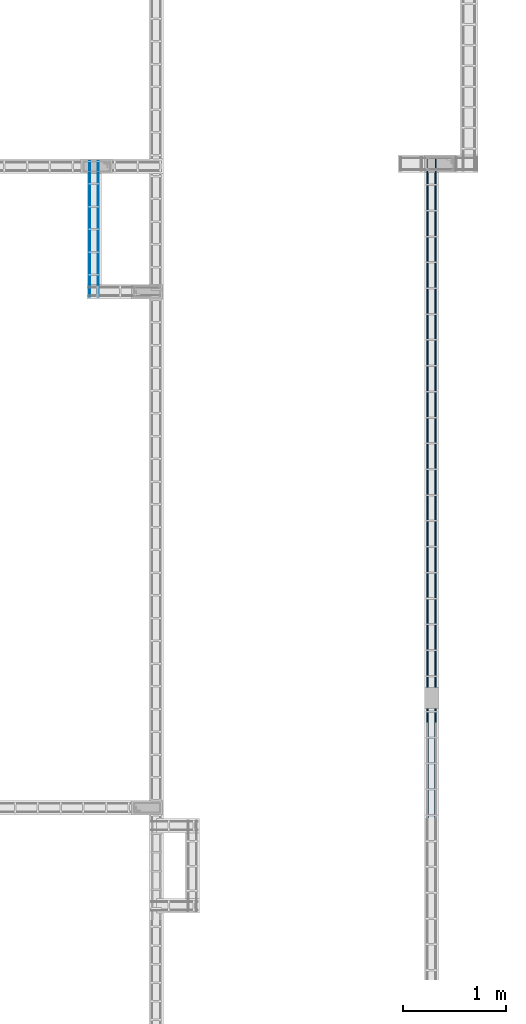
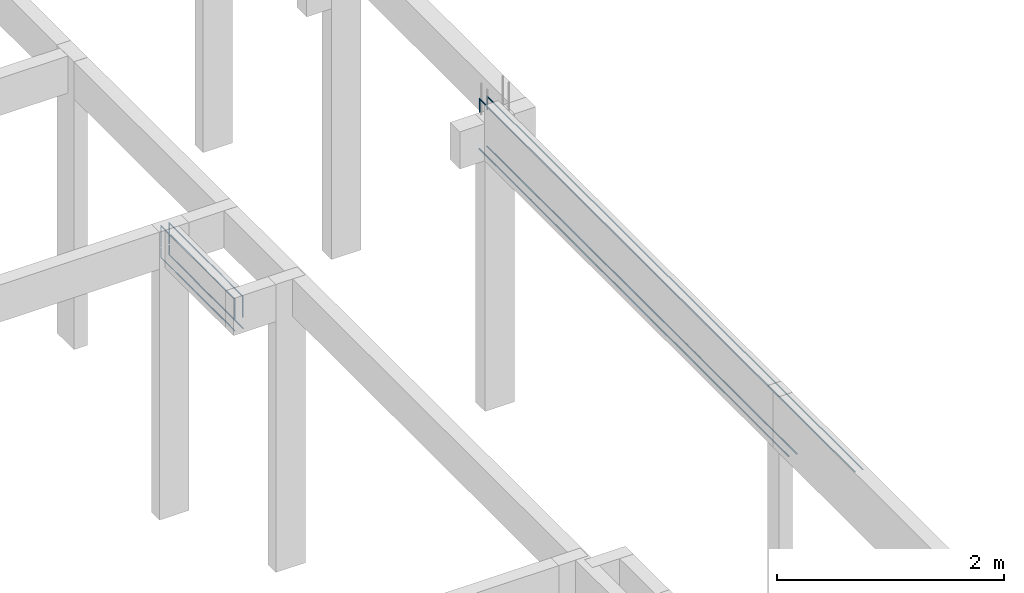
# One storey, part 75 of 236: 8 reinforcing bars.
"""IFC4 building model written with IfcOpenShell, lengths in centimetres."""

from ifc_helpers import new_model, entity, si_unit, derived_unit, frame, origin_with_axes, place, context, project, spatial, element, save


model = new_model("IFC4")

# Units and contexts
model_context = context("Model", 3, precision=1e-05, world=origin_with_axes(), identifier="Body")
ifc_project = project(units=[si_unit("LENGTHUNIT", "METRE", prefix="CENTI"), si_unit("VOLUMEUNIT", "CUBIC_METRE"), si_unit("AREAUNIT", "SQUARE_METRE"), si_unit("POWERUNIT", "WATT"), si_unit("LUMINOUSFLUXUNIT", "LUMEN"), si_unit("ELECTRICCURRENTUNIT", "AMPERE"), si_unit("PRESSUREUNIT", "PASCAL", prefix="KILO"), si_unit("MASSUNIT", "GRAM", prefix="KILO"), si_unit("PLANEANGLEUNIT", "RADIAN"), derived_unit("VOLUMETRICFLOWRATEUNIT", [(si_unit("LENGTHUNIT", "METRE"), 3), (si_unit("TIMEUNIT", "SECOND"), -1)])], contexts=[model_context])

# Site, building, storey
site_placement = place(None, frame((-4000.0, 0.0, 0.0), z_axis=(0.0, 0.0, 1.0), x_axis=(1.0, 0.0, 0.0)))
site = spatial("IfcSite", under=ifc_project, at=site_placement, Name="PADRÃO")
building_placement = place(site_placement, frame((0.0, 0.0, -14.0)))
building = spatial("IfcBuilding", under=site, at=building_placement, Name="CRECHE PRÉ-ESCOLA TIPO 2")
placement_1 = place(building_placement, origin_with_axes())
placement_2 = place(placement_1, frame((0.0, 0.0, 30.0), z_axis=(0.0, 0.0, 1.0), x_axis=(1.0, 0.0, 0.0)))
storey_placement = place(placement_2, frame((0.0, 0.0, 310.0), z_axis=(0.0, 0.0, 1.0), x_axis=(1.0, 0.0, 0.0)))
storey = spatial("IfcBuildingStorey", under=building, at=storey_placement, Name="TERREO", CompositionType="ELEMENT", Elevation=326.0)

# Reinforcing bars
for number, where, z_axis, x_axis, name in (
    (1, (1054.4, 3136.9968751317, -27.1), (0.0, 0.0, 1.0), (1.0, 0.0, 0.0), "V275 - Longitudinal inferior"),
    (2, (1062.6, 3136.9968751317, -27.1), (0.0, 0.0, 1.0), (1.0, 0.0, 0.0), "V275 - Longitudinal inferior"),
):
    element("IfcReinforcingBar", number, at=place(storey_placement, frame(where, z_axis=z_axis, x_axis=x_axis)), inside=storey, Name=name, BarLength=0.0, CrossSectionArea=5.0265482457e-05, NominalDiameter=0.8, PredefinedType="MAIN", context=model_context, shape_type="AdvancedSweptSolid", body=[
        entity("IfcSweptDiskSolid", entity("IfcCompositeCurve", [entity("IfcCompositeCurveSegment", "CONTINUOUS", True, entity("IfcPolyline", [entity("IfcCartesianPoint", [0.0, -65.4968751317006, -10.0]), entity("IfcCartesianPoint", [0.0, 65.0931248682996, -10.0])])), entity("IfcCompositeCurveSegment", "CONTINUOUS", True, entity("IfcPolyline", [entity("IfcCartesianPoint", [0.0, 65.0931248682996, -10.0]), entity("IfcCartesianPoint", [0.0, 65.0931248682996, 0.0])]))], False), 0.4),
    ])
for number, where, z_axis, x_axis, name in (
    (3, (1054.4, 3136.995, -2.49624973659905), (0.0, 0.0, 1.0), (1.0, 0.0, 0.0), "V275 - Longitudinal superior"),
    (4, (1062.6, 3136.995, -2.49624973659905), (0.0, 0.0, 1.0), (1.0, 0.0, 0.0), "V275 - Longitudinal superior"),
):
    element("IfcReinforcingBar", number, at=place(storey_placement, frame(where, z_axis=z_axis, x_axis=x_axis)), inside=storey, Name=name, BarLength=0.0, CrossSectionArea=5.0265482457e-05, NominalDiameter=0.8, PredefinedType="MAIN", context=model_context, shape_type="AdvancedSweptSolid", body=[
        entity("IfcSweptDiskSolid", entity("IfcCompositeCurve", [entity("IfcCompositeCurveSegment", "CONTINUOUS", True, entity("IfcPolyline", [entity("IfcCartesianPoint", [0.0, -65.095, -22.7014629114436]), entity("IfcCartesianPoint", [0.0, -65.095, -0.403750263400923])])), entity("IfcCompositeCurveSegment", "CONTINUOUS", True, entity("IfcPolyline", [entity("IfcCartesianPoint", [0.0, -65.095, -0.403750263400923]), entity("IfcCartesianPoint", [0.0, 65.095, -0.403750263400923])])), entity("IfcCompositeCurveSegment", "CONTINUOUS", True, entity("IfcPolyline", [entity("IfcCartesianPoint", [0.0, 65.095, -0.403750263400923]), entity("IfcCartesianPoint", [0.0, 65.095, -22.7014629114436])]))], False), 0.4),
    ])
for number, where, z_axis, x_axis, name in (
    (5, (1388.84, 2933.3363499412, -36.5), (0.0, 0.0, 1.0), (1.0, 0.0, 0.0), "V284 - Longitudinal inferior"),
    (6, (1380.84, 2933.3363499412, -36.5), (0.0, 0.0, 1.0), (1.0, 0.0, 0.0), "V284 - Longitudinal inferior"),
):
    element("IfcReinforcingBar", number, at=place(storey_placement, frame(where, z_axis=z_axis, x_axis=x_axis)), inside=storey, Name=name, BarLength=0.0, CrossSectionArea=7.853981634e-05, NominalDiameter=1.0, PredefinedType="MAIN", context=model_context, shape_type="AdvancedSweptSolid", body=[
        entity("IfcSweptDiskSolid", entity("IfcCompositeCurve", [entity("IfcCompositeCurveSegment", "CONTINUOUS", True, entity("IfcPolyline", [entity("IfcCartesianPoint", [0.0, -273.183650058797, -0.5]), entity("IfcCartesianPoint", [0.0, 273.183650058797, -0.5])]))], False), 0.5),
    ])
for number, where, z_axis, x_axis, name in (
    (7, (1388.715, 2875.01792989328, 17.505859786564), (0.0, 0.0, 1.0), (1.0, 0.0, 0.0), "V284 - Longitudinal superior"),
    (8, (1380.965, 2875.01792989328, 17.505859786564), (0.0, 0.0, 1.0), (1.0, 0.0, 0.0), "V284 - Longitudinal superior"),
):
    element("IfcReinforcingBar", number, at=place(storey_placement, frame(where, z_axis=z_axis, x_axis=x_axis)), inside=storey, Name=name, BarLength=0.0, CrossSectionArea=0.000122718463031, NominalDiameter=1.25, PredefinedType="MAIN", context=model_context, shape_type="AdvancedSweptSolid", body=[
        entity("IfcSweptDiskSolid", entity("IfcCompositeCurve", [entity("IfcCompositeCurveSegment", "CONTINUOUS", True, entity("IfcPolyline", [entity("IfcCartesianPoint", [0.0, -331.507929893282, -0.630859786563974]), entity("IfcCartesianPoint", [0.0, 330.877070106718, -0.630859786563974])])), entity("IfcCompositeCurveSegment", "CONTINUOUS", True, entity("IfcPolyline", [entity("IfcCartesianPoint", [0.0, 330.877070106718, -0.630859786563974]), entity("IfcCartesianPoint", [0.0, 330.877070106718, -15.005859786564])]))], False), 0.625),
    ])

save(model, "model.ifc")
